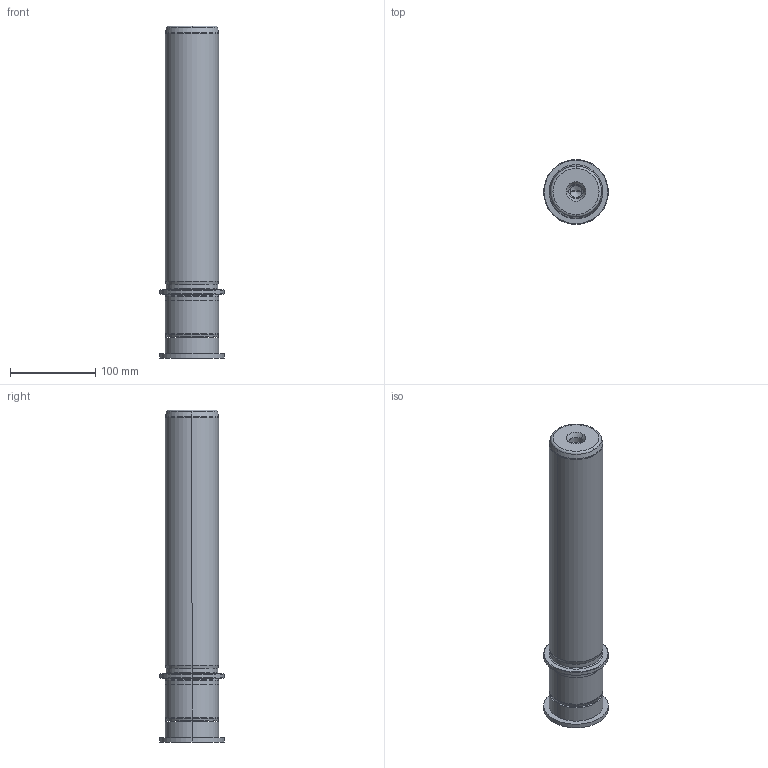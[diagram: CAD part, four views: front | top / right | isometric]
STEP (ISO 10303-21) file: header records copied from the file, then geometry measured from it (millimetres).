
FILE_DESCRIPTION((''),'2;1');
FILE_NAME('P22_063_315.stp','2009-02-06T15:52:50',(''),(''),'Mechanical Desktop 2009','Mechanical Desktop 2009',', , ');
FILE_SCHEMA(('CONFIG_CONTROL_DESIGN'));
Length unit declared in the file: millimetre
Products named in the file (2): Product; blmdl1
Assembly tree (1 placements, depth 2):
  Product
    blmdl1
Bounding box: 76 x 76 x 390 mm (x, y, z)
Volume: 1209456.5 mm3; surface area: 104505.5 mm2
Topology: 3 solids, 3 shells, 99 faces, 237 edges, 149 vertices
Faces by surface type: cylinder 32, cone 28, plane 19, torus 10, bspline 10
Entity records: 3419 total; most frequent: CARTESIAN_POINT 923, DIRECTION 570, ORIENTED_EDGE 466, AXIS2_PLACEMENT_3D 246, EDGE_CURVE 233, CIRCLE 155, VERTEX_POINT 149, EDGE_LOOP 110
